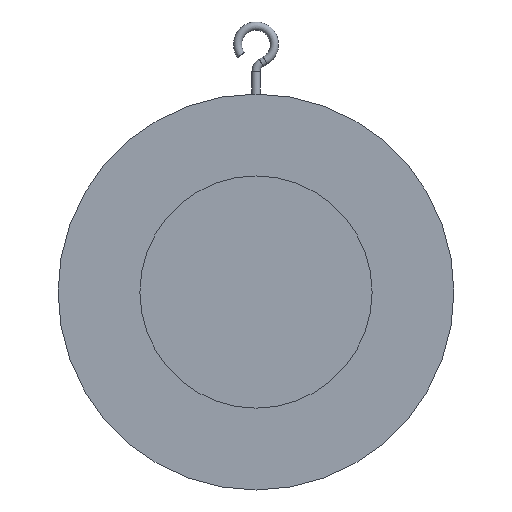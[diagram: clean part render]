
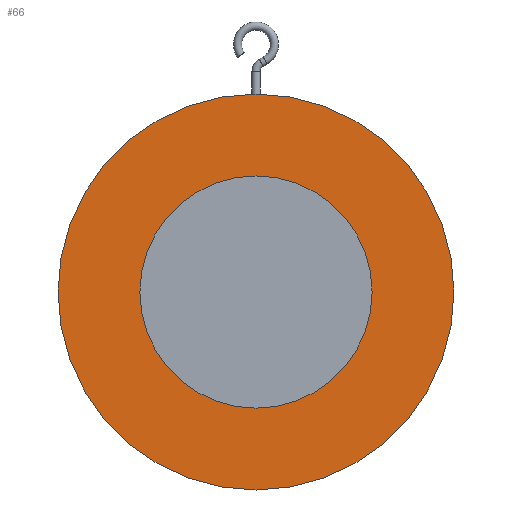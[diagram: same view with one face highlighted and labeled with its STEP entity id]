
A CAD part, front view. The second image highlights one B-rep face of the part: STEP entity #66.
In plain terms, the highlighted planar face has unit normal (0, -1, 0).
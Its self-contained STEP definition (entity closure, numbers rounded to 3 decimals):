
#66=ADVANCED_FACE('',(#203,#205),#207,.T.);
#203=FACE_BOUND('',#204,.T.);
#204=EDGE_LOOP('',(#315));
#205=FACE_BOUND('',#206,.T.);
#206=EDGE_LOOP('',(#316));
#207=PLANE('',#208);
#208=AXIS2_PLACEMENT_3D('',#209,#210,#211);
#209=CARTESIAN_POINT('',(0.,-16.,0.));
#210=DIRECTION('',(0.,-1.,0.));
#211=DIRECTION('',(0.,0.,1.));
#315=ORIENTED_EDGE('',*,*,#356,.F.);
#316=ORIENTED_EDGE('',*,*,#358,.T.);
#356=EDGE_CURVE('',#383,#383,#384,.T.);
#358=EDGE_CURVE('',#387,#387,#388,.T.);
#383=VERTEX_POINT('',#627);
#384=CIRCLE('',#628,193.5);
#387=VERTEX_POINT('',#637);
#388=CIRCLE('',#638,113.5);
#627=CARTESIAN_POINT('',(0.,-16.,193.5));
#628=AXIS2_PLACEMENT_3D('',#629,#630,#631);
#629=CARTESIAN_POINT('',(0.,-16.,0.));
#630=DIRECTION('',(0.,1.,0.));
#631=DIRECTION('',(0.,0.,1.));
#637=CARTESIAN_POINT('',(0.,-16.,113.5));
#638=AXIS2_PLACEMENT_3D('',#639,#640,#641);
#639=CARTESIAN_POINT('',(0.,-16.,0.));
#640=DIRECTION('',(0.,1.,0.));
#641=DIRECTION('',(0.,0.,1.));
